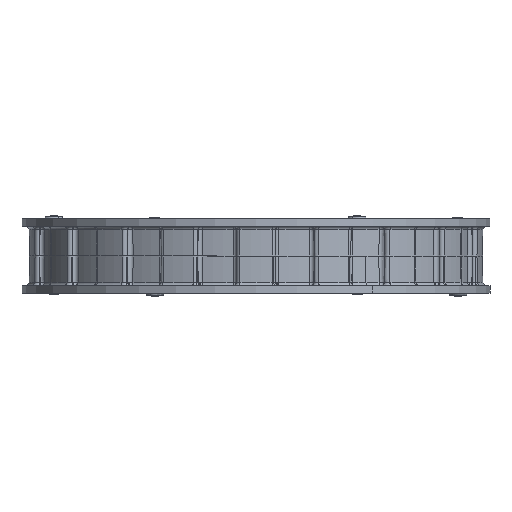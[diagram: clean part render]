
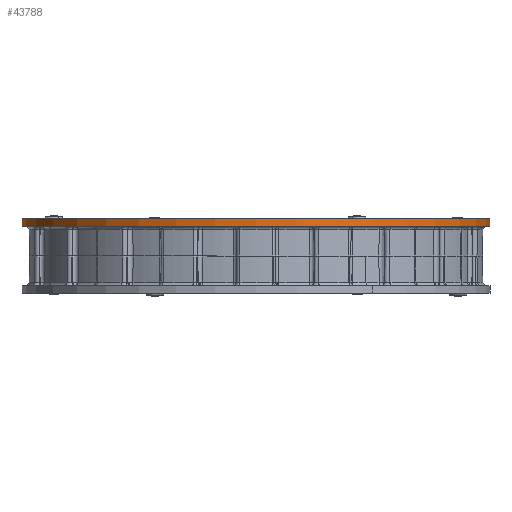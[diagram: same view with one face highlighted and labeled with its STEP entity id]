
A CAD part, front view. The second image highlights one B-rep face of the part: STEP entity #43788.
In plain terms, the highlighted cylindrical face has radius 100.013 mm (diameter 200.025 mm), a partial arc.
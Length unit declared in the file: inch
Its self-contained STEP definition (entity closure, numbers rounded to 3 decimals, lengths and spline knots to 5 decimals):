
#559 = DIRECTION ( 'NONE',  ( 1., 0., 0. ) ) ;
#562 = DIRECTION ( 'NONE',  ( 0., 0., 1. ) ) ;
#563 = CARTESIAN_POINT ( 'NONE',  ( 0., 0., -0.4375 ) ) ;
#2247 = AXIS2_PLACEMENT_3D ( 'NONE', #24307, #24309, #24311 ) ;
#2852 = CIRCLE ( 'NONE', #2247, 3.9375 ) ;
#4380 = FACE_OUTER_BOUND ( 'NONE', #40264, .T. ) ;
#4384 = CYLINDRICAL_SURFACE ( 'NONE', #41266, 3.9375 ) ;
#5449 = VERTEX_POINT ( 'NONE', #16710 ) ;
#5450 = VERTEX_POINT ( 'NONE', #16711 ) ;
#5453 = VERTEX_POINT ( 'NONE', #16714 ) ;
#5454 = VERTEX_POINT ( 'NONE', #16715 ) ;
#7296 = ORIENTED_EDGE ( 'NONE', *, *, #11997, .F. ) ;
#7297 = ORIENTED_EDGE ( 'NONE', *, *, #12430, .F. ) ;
#7298 = ORIENTED_EDGE ( 'NONE', *, *, #11999, .T. ) ;
#7299 = ORIENTED_EDGE ( 'NONE', *, *, #27056, .F. ) ;
#11997 = EDGE_CURVE ( 'NONE', #5449, #5454, #28614, .T. ) ;
#11999 = EDGE_CURVE ( 'NONE', #5450, #5453, #28627, .T. ) ;
#12430 = EDGE_CURVE ( 'NONE', #5450, #5449, #31754, .T. ) ;
#16710 = CARTESIAN_POINT ( 'NONE',  ( -3.9375, 0., -0.625 ) ) ;
#16711 = CARTESIAN_POINT ( 'NONE',  ( 3.9375, 0., -0.625 ) ) ;
#16714 = CARTESIAN_POINT ( 'NONE',  ( 3.9375, 0., -0.5 ) ) ;
#16715 = CARTESIAN_POINT ( 'NONE',  ( -3.9375, 0., -0.5 ) ) ;
#24307 = CARTESIAN_POINT ( 'NONE',  ( 0., 0., -0.5 ) ) ;
#24309 = DIRECTION ( 'NONE',  ( 0., 0., 1. ) ) ;
#24311 = DIRECTION ( 'NONE',  ( -1., 0., 0. ) ) ;
#27056 = EDGE_CURVE ( 'NONE', #5454, #5453, #2852, .T. ) ;
#28614 = LINE ( 'NONE', #36642, #28629 ) ;
#28627 = LINE ( 'NONE', #36653, #28635 ) ;
#28629 = VECTOR ( 'NONE', #36631, 39.37008 ) ;
#28635 = VECTOR ( 'NONE', #36648, 39.37008 ) ;
#29579 = CARTESIAN_POINT ( 'NONE',  ( 0., 0., -0.625 ) ) ;
#29580 = DIRECTION ( 'NONE',  ( 0., 0., -1. ) ) ;
#29581 = DIRECTION ( 'NONE',  ( -1., 0., 0. ) ) ;
#31754 = CIRCLE ( 'NONE', #50822, 3.9375 ) ;
#36631 = DIRECTION ( 'NONE',  ( 0., 0., 1. ) ) ;
#36642 = CARTESIAN_POINT ( 'NONE',  ( -3.9375, 0., -0.4375 ) ) ;
#36648 = DIRECTION ( 'NONE',  ( 0., 0., 1. ) ) ;
#36653 = CARTESIAN_POINT ( 'NONE',  ( 3.9375, 0., -0.4375 ) ) ;
#40264 = EDGE_LOOP ( 'NONE', ( #7296, #7297, #7298, #7299 ) ) ;
#41266 = AXIS2_PLACEMENT_3D ( 'NONE', #563, #562, #559 ) ;
#43788 = ADVANCED_FACE ( 'NONE', ( #4380 ), #4384, .T. ) ;
#50822 = AXIS2_PLACEMENT_3D ( 'NONE', #29579, #29580, #29581 ) ;
